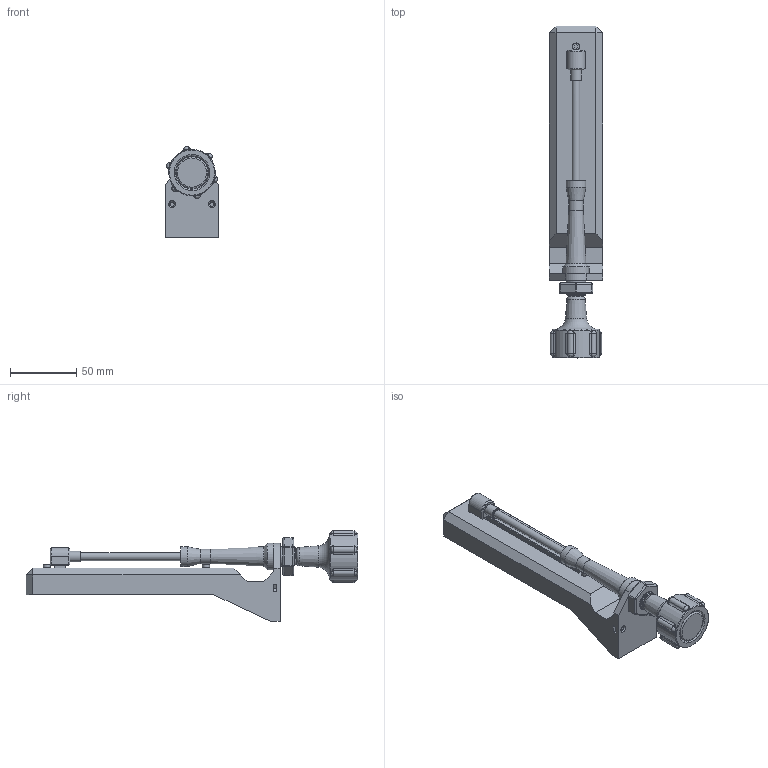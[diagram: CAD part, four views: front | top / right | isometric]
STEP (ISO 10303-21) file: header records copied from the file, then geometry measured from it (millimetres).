
FILE_DESCRIPTION(/* description */ (''),/* implementation_level */ '2;1');
FILE_NAME(/* name */ 'C:/Users/grusv/Downloads/3D Printing/Fuel Mixture Standalone/Cadet Standalone Mixture.step',/* time_stamp */ '2020-11-16T11:25:54-05:00',/* author */ (''),/* organization */ (''),/* preprocessor_version */ 'ST-DEVELOPER v18.1',/* originating_system */ 'Autodesk Translation Framework v9.3.0.1241',/* authorisation */ '');
FILE_SCHEMA (('AUTOMOTIVE_DESIGN { 1 0 10303 214 3 1 1 }'));
Length unit declared in the file: millimetre
Products named in the file (15): Standalone Mixture; Outer Tube; End Cap (1); End Cap pt. 2; End Cap; Linear Pot v1; Base; Slider; Assembly; M3x5; Knob; Push Button; Sheath; Nut; Inner Tube
Assembly tree (15 placements, depth 3):
  Standalone Mixture
    Outer Tube
    End Cap (1)
      End Cap pt. 2
      End Cap
    Linear Pot v1
      Base
      Slider
    Assembly
      M3x5  x2
    Knob
    Push Button
    Sheath
    Nut
    Inner Tube
Bounding box: 40 x 250 x 68.36 mm (x, y, z)
Volume: 170147 mm3; surface area: 74092.9 mm2
Topology: 13 solids, 13 shells, 533 faces, 1327 edges, 851 vertices
Faces by surface type: cylinder 266, plane 165, torus 41, bspline 29, cone 20, sphere 12
Full cylindrical faces by diameter (mm): 2.356 x12, 2.529 x10, 2.927 x20, 3.086 x6, 3.15 x1, 3.2 x4, 3.529 x2, 5.15 x1, 5.4 x2, 5.5 x1, 5.95 x1, 6 x1, 6.2 x1, 6.4 x39, 8 x1, 8.15 x1, 8.5 x1, 8.7 x1, 11 x1, 11.65 x1, 12 x1, 12.937 x6, 13.526 x4, 14.65 x5, 15 x2, 15.25 x1, 15.403 x5, 20 x1, 21 x1, 24 x1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
Entity records: 32104 total; most frequent: CARTESIAN_POINT 20784, ORIENTED_EDGE 2380, DIRECTION 2077, EDGE_CURVE 1190, AXIS2_PLACEMENT_3D 791, VERTEX_POINT 760, EDGE_LOOP 534, LINE 495
